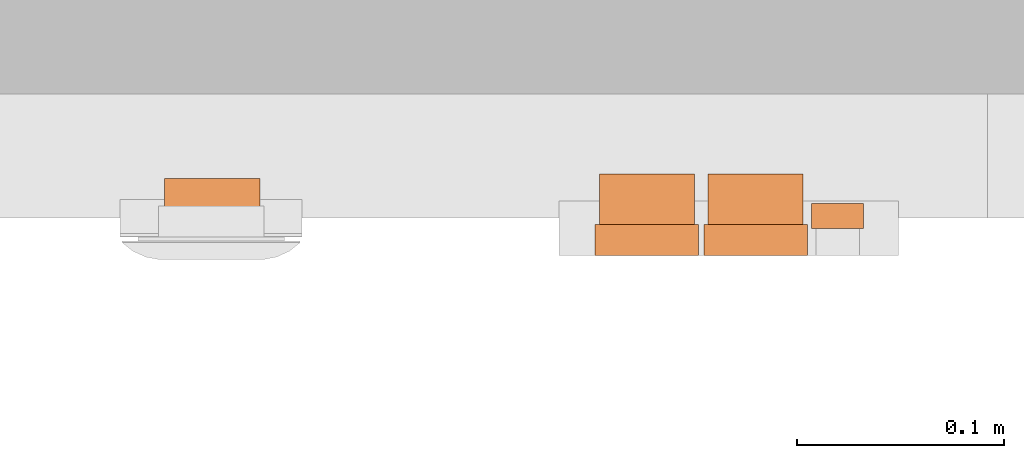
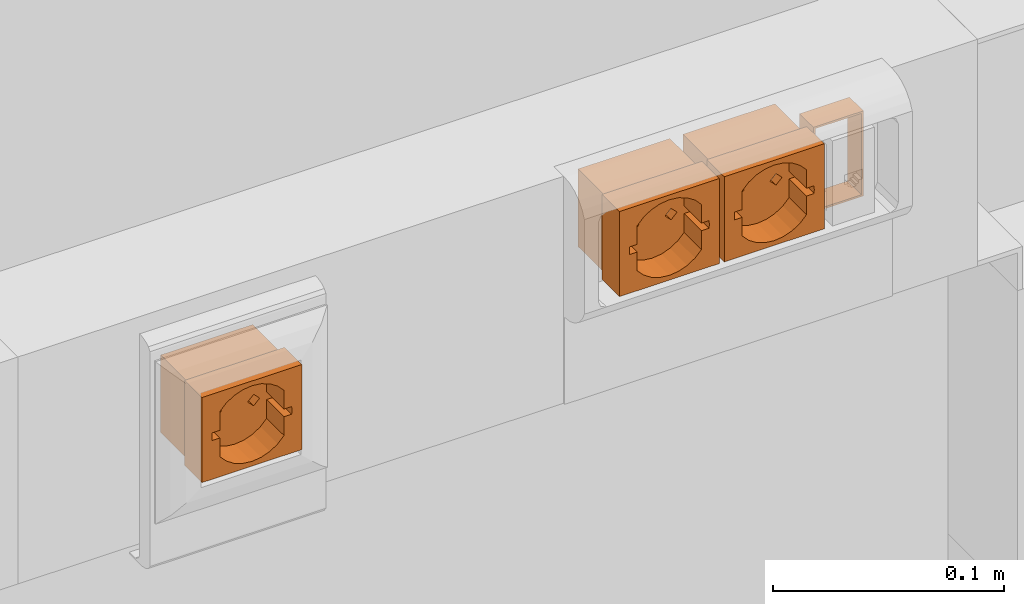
# One storey, part 67 of 71: 4 proxies.
"""IFC2X3 building model written with IfcOpenShell, lengths in millimetres."""

from ifc_helpers import new_model, entity, si_unit, converted_unit, derived_unit, direction, frame, origin, place, context, subcontext, project, spatial, polyline, outline, extrude, faceted_brep, source, transform, mapped, material, type_object, type_shapes, element, save


model = new_model("IFC2X3")

# Units and contexts
model_context = context("Model", 3, precision=0.01, world=origin(), true_north=direction((6.12303176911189e-17, 1.0)))
body_context = subcontext(model_context, "Body", "Model", "MODEL_VIEW")
ifc_project = project(units=[si_unit("LENGTHUNIT", "METRE", prefix="MILLI"), si_unit("AREAUNIT", "SQUARE_METRE"), si_unit("VOLUMEUNIT", "CUBIC_METRE"), converted_unit("PLANEANGLEUNIT", "DEGREE", entity("IfcRatioMeasure", 0.0174532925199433), si_unit("PLANEANGLEUNIT", "RADIAN"), dimensions=[0, 0, 0, 0, 0, 0, 0]), si_unit("MASSUNIT", "GRAM", prefix="KILO"), derived_unit("MASSDENSITYUNIT", [(si_unit("MASSUNIT", "GRAM", prefix="KILO"), 1), (si_unit("LENGTHUNIT", "METRE"), -3)]), si_unit("TIMEUNIT", "SECOND"), si_unit("FREQUENCYUNIT", "HERTZ"), si_unit("THERMODYNAMICTEMPERATUREUNIT", "DEGREE_CELSIUS"), derived_unit("THERMALTRANSMITTANCEUNIT", [(si_unit("MASSUNIT", "GRAM", prefix="KILO"), 1), (si_unit("THERMODYNAMICTEMPERATUREUNIT", "KELVIN"), -1), (si_unit("TIMEUNIT", "SECOND"), -3)]), derived_unit("VOLUMETRICFLOWRATEUNIT", [(si_unit("LENGTHUNIT", "METRE"), 3), (si_unit("TIMEUNIT", "SECOND"), -1)]), si_unit("ELECTRICCURRENTUNIT", "AMPERE"), si_unit("ELECTRICVOLTAGEUNIT", "VOLT"), si_unit("POWERUNIT", "WATT"), si_unit("FORCEUNIT", "NEWTON", prefix="KILO"), si_unit("ILLUMINANCEUNIT", "LUX"), si_unit("LUMINOUSFLUXUNIT", "LUMEN"), si_unit("LUMINOUSINTENSITYUNIT", "CANDELA"), derived_unit("USERDEFINED", [(si_unit("MASSUNIT", "GRAM", prefix="KILO"), -1), (si_unit("LENGTHUNIT", "METRE"), -2), (si_unit("TIMEUNIT", "SECOND"), 3), (si_unit("LUMINOUSFLUXUNIT", "LUMEN"), 1)]), derived_unit("LINEARVELOCITYUNIT", [(si_unit("LENGTHUNIT", "METRE"), 1), (si_unit("TIMEUNIT", "SECOND"), -1)]), si_unit("PRESSUREUNIT", "PASCAL"), derived_unit("USERDEFINED", [(si_unit("LENGTHUNIT", "METRE"), -2), (si_unit("MASSUNIT", "GRAM", prefix="KILO"), 1), (si_unit("TIMEUNIT", "SECOND"), -2)])], contexts=[model_context])

# Site, building, storey
site_placement = place(None, origin())
site = spatial("IfcSite", under=ifc_project, at=site_placement, Name="Default", CompositionType="ELEMENT")
building_placement = place(site_placement, origin())
building = spatial("IfcBuilding", under=site, at=building_placement, Name="Наименование здания", CompositionType="ELEMENT")
storey_placement = place(building_placement, origin())
storey = spatial("IfcBuildingStorey", under=building, at=storey_placement, Name="Этаж 01", CompositionType="ELEMENT", Elevation=0.0)

# Proxies
ifc_material_1 = material(Name="DKC_Пластик_Белый")
building_element_proxy_type_1 = type_object("IfcBuildingElementProxyType", Name="Белый", PredefinedType="NOTDEFINED", material=ifc_material_1)
shared_shape_1 = source(origin(), body_context, "Body", "Brep", [
    faceted_brep([(-6.48971939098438, -10.5732864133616, 0.0), (-9.52308900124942, -10.5732864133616, 3.03336961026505), (-12.5564586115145, -10.5732864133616, 0.0), (-9.52308900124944, -10.5732864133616, -3.03336961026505), (9.52308900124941, -10.5732864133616, -3.03336961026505), (12.5564586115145, -10.5732864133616, 0.0), (9.52308900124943, -10.5732864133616, 3.03336961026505), (6.48971939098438, -10.5732864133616, 0.0), (16.0533963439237, -24.3000000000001, 2.03345949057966), (16.0533963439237, -24.3000000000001, 11.928472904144), (9.52308900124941, -24.3000000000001, 3.03336961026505), (12.5564586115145, -24.3000000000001, 0.0), (16.0533963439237, -24.3000000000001, -2.03345949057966), (20.0, -24.3000000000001, 0.0), (19.8963575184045, -24.3000000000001, 2.03345949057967), (12.8662739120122, -24.3000000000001, 15.3120539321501), (8.98416779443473, -24.3000000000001, 17.868540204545), (4.6167735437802, -24.3000000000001, 19.4598407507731), (0.0, -24.3000000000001, 20.0), (6.48971939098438, -24.3000000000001, 0.0), (-6.48971939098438, -24.3000000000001, 0.0), (-9.52308900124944, -24.3000000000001, 3.03336961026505), (-4.61677354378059, -24.3000000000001, 19.4598407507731), (-8.98416779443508, -24.3000000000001, 17.8685402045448), (-12.8662739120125, -24.3000000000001, 15.3120539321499), (-16.0533963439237, -24.3000000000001, 11.9284729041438), (-16.0533963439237, -24.3000000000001, 2.03345949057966), (-12.5564586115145, -24.3000000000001, 0.0), (-16.0533963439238, -24.3000000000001, -2.03345949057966), (-20.0, -24.3000000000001, 0.0), (-19.8963575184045, -24.3000000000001, 2.03345949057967), (-19.8963575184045, -24.3000000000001, -2.03345949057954), (-9.52308900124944, -24.3000000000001, -3.03336961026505), (-16.0533963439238, -24.3000000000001, -11.9284729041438), (-12.8662739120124, -24.3000000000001, -15.3120539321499), (-8.98416779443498, -24.3000000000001, -17.8685402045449), (-4.61677354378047, -24.3000000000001, -19.4598407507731), (0.0, -24.3000000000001, -20.0), (9.52308900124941, -24.3000000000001, -3.03336961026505), (4.61677354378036, -24.3000000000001, -19.4598407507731), (8.98416779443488, -24.3000000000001, -17.8685402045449), (12.8662739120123, -24.3000000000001, -15.31205393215), (16.0533963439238, -24.3000000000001, -11.9284729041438), (19.8963575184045, -24.3000000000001, -2.03345949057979), (-23.0, 0.0, -20.5000000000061), (-23.0, 0.0, 20.5000000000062), (23.0, 0.0, 20.5000000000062), (23.0, 0.0, -20.5000000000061), (-23.0, -24.3000000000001, 20.5000000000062), (23.0, -24.3000000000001, 20.5000000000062), (-23.0, -24.3000000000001, -20.5000000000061), (23.0, -24.3000000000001, -20.5000000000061), (25.0, -39.3, 22.5000000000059), (16.0533963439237, -39.3, 11.9284729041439), (19.8963575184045, -39.3, 2.03345949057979), (12.8662739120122, -39.3, 15.3120539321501), (20.0, -39.3, 0.0), (8.98416779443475, -39.3, 17.868540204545), (4.61677354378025, -39.3, 19.4598407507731), (0.0, -39.3, 20.0), (-25.0, -39.3, 22.5000000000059), (25.0, -39.3, -22.5000000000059), (-4.6167735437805, -39.3, 19.4598407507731), (-8.98416779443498, -39.3, 17.8685402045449), (-12.8662739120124, -39.3, 15.31205393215), (-16.0533963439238, -39.3, 11.9284729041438), (-19.8963575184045, -39.3, 2.03345949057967), (-20.0, -39.3, 0.0), (-25.0, -39.3, -22.5000000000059), (-19.8963575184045, -39.3, -2.03345949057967), (-16.0533963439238, -39.3, -11.9284729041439), (-12.8662739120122, -39.3, -15.3120539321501), (-8.98416779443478, -39.3, -17.868540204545), (-4.61677354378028, -39.3, -19.4598407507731), (0.0, -39.3, -20.0), (19.8963575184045, -39.3, -2.03345949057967), (16.0533963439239, -39.3, -11.9284729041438), (12.8662739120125, -39.3, -15.3120539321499), (8.98416779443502, -39.3, -17.8685402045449), (4.61677354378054, -39.3, -19.4598407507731), (-16.0533963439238, -39.3, -2.03345949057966), (-16.0533963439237, -39.3, 2.03345949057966), (16.0533963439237, -39.3, 2.03345949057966), (16.0533963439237, -39.3, -2.03345949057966), (-25.0, -24.3000000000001, 22.5000000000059), (-25.0, -24.3000000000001, -22.5000000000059), (25.0, -24.3000000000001, 22.5000000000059), (25.0, -24.3000000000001, -22.5000000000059)], [[[0, 1, 2, 3]], [[4, 5, 6, 7]], [[8, 9, 10]], [[8, 10, 11]], [[8, 11, 12]], [[13, 8, 12]], [[13, 14, 8]], [[9, 15, 10]], [[16, 10, 15]], [[16, 17, 10]], [[17, 18, 10]], [[10, 18, 19]], [[19, 18, 20]], [[20, 18, 21]], [[18, 22, 21]], [[22, 23, 21]], [[23, 24, 21]], [[25, 21, 24]], [[26, 21, 25]], [[27, 21, 26]], [[28, 27, 26]], [[26, 29, 28]], [[29, 26, 30]], [[28, 29, 31]], [[28, 32, 27]], [[33, 32, 28]], [[33, 34, 32]], [[35, 32, 34]], [[32, 35, 36]], [[36, 37, 32]], [[38, 19, 37]], [[39, 38, 37]], [[20, 37, 19]], [[32, 37, 20]], [[40, 38, 39]], [[38, 40, 41]], [[38, 41, 42]], [[12, 38, 42]], [[38, 12, 11]], [[13, 12, 43]], [[44, 45, 46, 47]], [[48, 49, 46, 45]], [[50, 48, 45, 44]], [[51, 50, 44, 47]], [[49, 51, 47, 46]], [[38, 4, 7, 19]], [[11, 5, 4, 38]], [[10, 6, 5, 11]], [[19, 7, 6, 10]], [[32, 3, 2, 27]], [[20, 0, 3, 32]], [[21, 1, 0, 20]], [[27, 2, 1, 21]], [[52, 53, 54]], [[53, 52, 55]], [[52, 54, 56]], [[57, 55, 52]], [[58, 57, 52]], [[59, 58, 52]], [[52, 60, 59]], [[56, 61, 52]], [[62, 59, 60]], [[63, 62, 60]], [[63, 60, 64]], [[60, 65, 64]], [[65, 60, 66]], [[67, 66, 60]], [[60, 68, 67]], [[69, 67, 68]], [[68, 70, 69]], [[70, 68, 71]], [[72, 71, 68]], [[72, 68, 73]], [[74, 73, 68]], [[74, 68, 61]], [[56, 75, 61]], [[76, 61, 75]], [[61, 76, 77]], [[77, 78, 61]], [[78, 79, 61]], [[61, 79, 74]], [[80, 69, 70]], [[66, 81, 65]], [[82, 54, 53]], [[76, 75, 83]], [[84, 48, 50]], [[48, 84, 49]], [[50, 85, 84]], [[86, 49, 84]], [[49, 86, 51]], [[87, 51, 86]], [[51, 87, 85]], [[85, 50, 51]], [[60, 52, 86, 84]], [[68, 60, 84, 85]], [[61, 68, 85, 87]], [[52, 61, 87, 86]], [[64, 65, 25, 24]], [[24, 23, 63, 64]], [[63, 23, 22, 62]], [[18, 59, 62, 22]], [[57, 58, 17, 16]], [[16, 15, 55, 57]], [[55, 15, 9, 53]], [[58, 59, 18, 17]], [[82, 53, 9, 8]], [[76, 83, 12, 42]], [[54, 82, 8, 14]], [[81, 66, 30, 26]], [[13, 56, 54, 14]], [[43, 75, 56, 13]], [[83, 75, 43, 12]], [[69, 80, 28, 31]], [[77, 76, 42, 41]], [[41, 40, 78, 77]], [[78, 40, 39, 79]], [[37, 74, 79, 39]], [[72, 73, 36, 35]], [[71, 72, 35, 34]], [[70, 71, 34, 33]], [[73, 74, 37, 36]], [[80, 70, 33, 28]], [[65, 81, 26, 25]], [[29, 67, 69, 31]], [[30, 66, 67, 29]]]),
])
type_shapes(building_element_proxy_type_1, [shared_shape_1])
for number, where in (
    (1, (7010.30595596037, -3848.37030671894, 1023.58229952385)),
    (2, (7062.80595596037, -3848.37030671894, 1023.58229952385)),
    (3, (6800.32655920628, -3850.44530671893, 1000.0)),
):
    element("IfcBuildingElementProxy", number, at=place(storey_placement, frame(where)), inside=storey, type_object=building_element_proxy_type_1, material=ifc_material_1, Name="КНС_СиловыеЭлектрическиеРозеткиШтекерныеСЗаземлениемИСоШторками_DKC:Белый", ObjectType="Белый", context=body_context, shape_type="MappedRepresentation", body=[
        mapped(shared_shape_1, transform((0.0, 0.0, 0.0), scale=1.0)),
    ])
ifc_material_2 = material(Name="DKC_Пластик_СерыйМеталлик")
building_element_proxy_type_2 = type_object("IfcBuildingElementProxyType", Name="1 модуль", PredefinedType="NOTDEFINED", material=ifc_material_2)
shared_shape_2 = source(origin(), body_context, "Body", "SweptSolid", [
    extrude(outline(polyline([(-22.5000000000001, -12.4999999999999), (22.5000000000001, -12.4999999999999), (22.5000000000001, 12.4999999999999), (-22.5000000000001, 12.4999999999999), (-22.5000000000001, -12.4999999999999)]), holes=[polyline([(-21.5000000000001, -11.4999999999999), (-21.5000000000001, 11.4999999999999), (21.5000000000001, 11.4999999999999), (21.5000000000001, -11.4999999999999), (-21.5000000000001, -11.4999999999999)])]), frame((0.0, 0.0, 0.0), z_axis=(0.0, 1.0, 0.0), x_axis=(0.0, 0.0, -1.0)), (0.0, 0.0, 1.0), 11.9999999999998),
])
type_shapes(building_element_proxy_type_2, [shared_shape_2])
proxy_placement = place(storey_placement, frame((7102.38762663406, -3874.67030671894, 1023.58229952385)))
element("IfcBuildingElementProxy", 4, at=proxy_placement, inside=storey, type_object=building_element_proxy_type_2, material=ifc_material_2, Name="КНС_СуппортДляМонтажаЭУИСерииVivaНаDIN-рейкуИлиМонтажнуюПлату_DKC:1 модуль", ObjectType="1 модуль", context=body_context, shape_type="MappedRepresentation", body=[
    mapped(shared_shape_2, transform((0.0, 0.0, 0.0), scale=1.0)),
])

save(model, "model.ifc")
